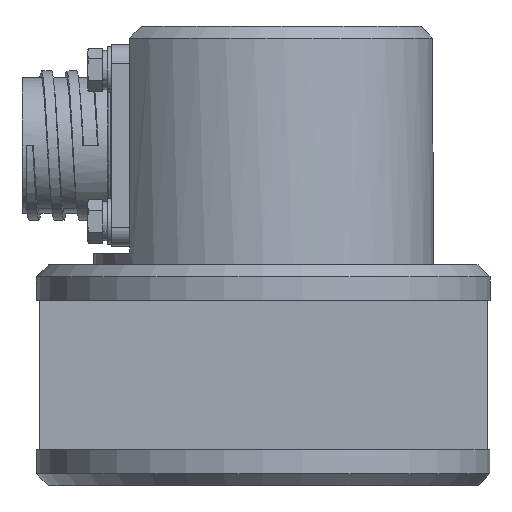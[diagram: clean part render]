
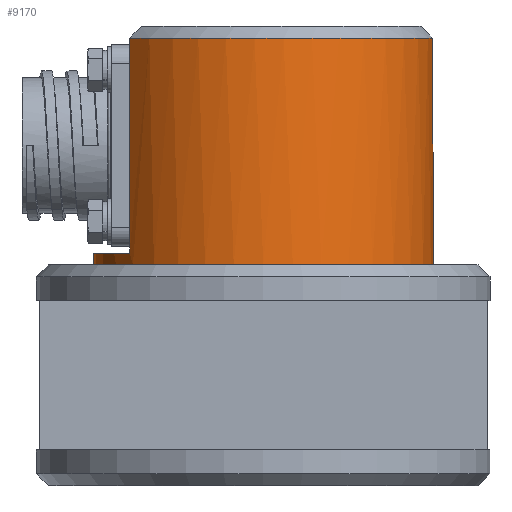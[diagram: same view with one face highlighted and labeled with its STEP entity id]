
A CAD part, left-side view. The second image highlights one B-rep face of the part: STEP entity #9170.
In plain terms, the highlighted cylindrical face has radius 28.5 mm (diameter 57 mm), a full revolution.
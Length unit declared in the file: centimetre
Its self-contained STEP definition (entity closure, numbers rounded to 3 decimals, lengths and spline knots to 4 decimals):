
#1498=VECTOR('',#15262,1.);
#1500=VECTOR('',#15264,1.);
#2108=LINE('',#10554,#1498);
#2110=LINE('',#10558,#1500);
#2997=CYLINDRICAL_SURFACE('',#9733,2.85);
#3123=VERTEX_POINT('',#10531);
#3127=VERTEX_POINT('',#10543);
#3128=VERTEX_POINT('',#10545);
#3129=VERTEX_POINT('',#10555);
#3130=VERTEX_POINT('',#10557);
#3929=CIRCLE('',#9707,2.85);
#3931=CIRCLE('',#9712,2.85);
#3941=CIRCLE('',#9732,2.85);
#4243=EDGE_CURVE('',#3123,#3123,#3929,.T.);
#4249=EDGE_CURVE('',#3128,#3127,#3931,.T.);
#4251=EDGE_CURVE('',#3129,#3127,#2108,.T.);
#4253=EDGE_CURVE('',#3128,#3130,#2110,.T.);
#4269=EDGE_CURVE('',#3130,#3129,#3941,.T.);
#5435=ORIENTED_EDGE('',*,*,#4249,.F.);
#5436=ORIENTED_EDGE('',*,*,#4253,.T.);
#5437=ORIENTED_EDGE('',*,*,#4269,.T.);
#5438=ORIENTED_EDGE('',*,*,#4251,.T.);
#5439=ORIENTED_EDGE('',*,*,#4243,.F.);
#7639=EDGE_LOOP('',(#5435,#5436,#5437,#5438));
#7640=EDGE_LOOP('',(#5439));
#8416=FACE_BOUND('',#7639,.T.);
#8417=FACE_BOUND('',#7640,.T.);
#9170=ADVANCED_FACE('',(#8416,#8417),#2997,.T.);
#9707=AXIS2_PLACEMENT_3D('',#10530,#15246,#15247);
#9712=AXIS2_PLACEMENT_3D('',#10551,#15257,#15258);
#9732=AXIS2_PLACEMENT_3D('',#10734,#15296,#15297);
#9733=AXIS2_PLACEMENT_3D('',#10735,#15298,#15299);
#10530=CARTESIAN_POINT('',(0.,0.9836,0.));
#10531=CARTESIAN_POINT('',(2.85,0.9836,0.));
#10543=CARTESIAN_POINT('',(2.24,-2.8164,-1.7621));
#10545=CARTESIAN_POINT('',(2.24,-2.8164,1.7621));
#10551=CARTESIAN_POINT('',(0.,-2.8164,0.));
#10554=CARTESIAN_POINT('',(2.24,-1.1164,-1.7621));
#10555=CARTESIAN_POINT('',(2.24,0.7836,-1.7621));
#10557=CARTESIAN_POINT('',(2.24,0.7836,1.7621));
#10558=CARTESIAN_POINT('',(2.24,-1.1164,1.7621));
#10734=CARTESIAN_POINT('',(0.,0.7836,0.));
#10735=CARTESIAN_POINT('',(0.,-1.0164,0.));
#15246=DIRECTION('',(0.,1.,0.));
#15247=DIRECTION('',(2.85,0.,0.));
#15257=DIRECTION('',(0.,-1.,0.));
#15258=DIRECTION('',(-2.85,0.,0.));
#15262=DIRECTION('',(0.,-1.,0.));
#15264=DIRECTION('',(0.,1.,0.));
#15296=DIRECTION('',(0.,1.,0.));
#15297=DIRECTION('',(2.85,0.,0.));
#15298=DIRECTION('',(0.,1.,0.));
#15299=DIRECTION('',(2.85,0.,0.));
